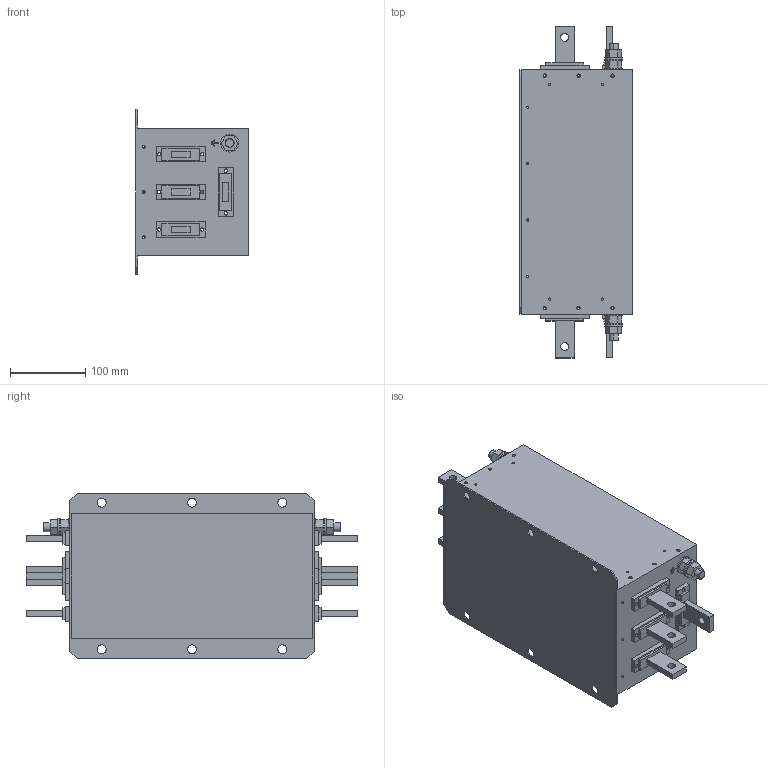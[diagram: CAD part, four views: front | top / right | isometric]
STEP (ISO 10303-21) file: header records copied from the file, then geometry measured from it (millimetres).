
FILE_DESCRIPTION (( 'STEP AP214' ), '1' );
FILE_NAME ('NF-4-600-HTR.STEP', '2026-09-23T08:23:09', ( '' ), ( '' ), 'SwSTEP 2.0', 'SolidWorks 2025', '' );
FILE_SCHEMA (( 'AUTOMOTIVE_DESIGN' ));
Length unit declared in the file: millimetre
Products named in the file (8): Part3; NF-4-600-HTR_2; Imported6; Part2_2; Part1_1; NF-4-600-HTR; 56; Imported2_2
Assembly tree (17 placements, depth 3):
  NF-4-600-HTR
    NF-4-600-HTR_2
      Part1_1
      Imported2_2  x8
      Part3  x3
      56
      Part2_2
      Imported6  x2
Bounding box: 150 x 441 x 220 mm (x, y, z)
Volume: 1055269.3 mm3; surface area: 753378.6 mm2
Topology: 16 solids, 18 shells, 840 faces, 2092 edges, 1384 vertices
Faces by surface type: plane 436, cylinder 360, cone 44
Entity records: 17822 total; most frequent: DIRECTION 3224, CARTESIAN_POINT 2944, ORIENTED_EDGE 2832, EDGE_CURVE 1416, AXIS2_PLACEMENT_3D 1216, VERTEX_POINT 936, EDGE_LOOP 816, LINE 792
